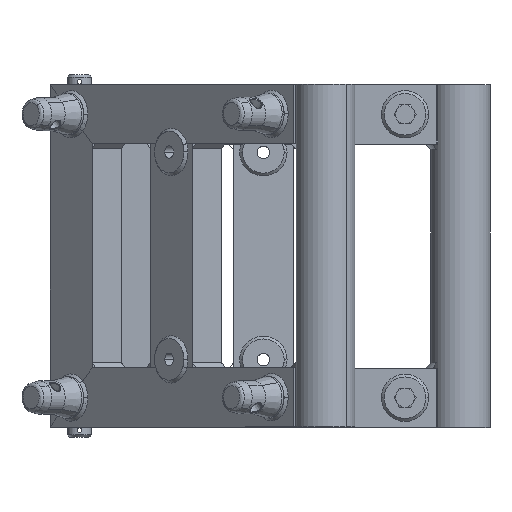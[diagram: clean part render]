
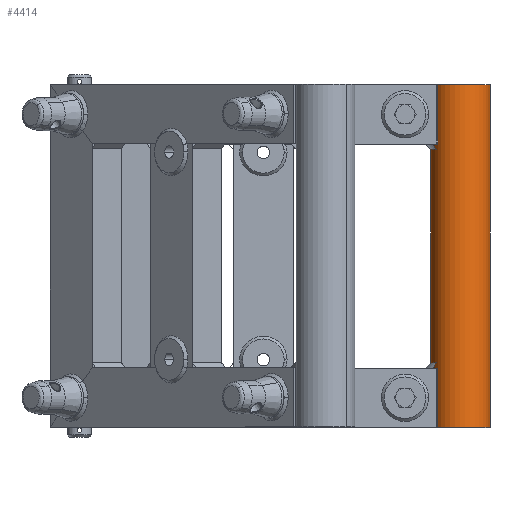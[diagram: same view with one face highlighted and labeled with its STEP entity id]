
A CAD part, top view. The second image highlights one B-rep face of the part: STEP entity #4414.
In plain terms, the highlighted cylindrical face has radius 25 mm (diameter 50 mm), a partial arc.
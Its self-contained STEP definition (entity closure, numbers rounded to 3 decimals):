
#4310=CARTESIAN_POINT('',(0.,-144.25,0.));
#4311=DIRECTION('',(0.,1.,0.));
#4312=DIRECTION('',(1.,0.,0.));
#4313=AXIS2_PLACEMENT_3D('',#4310,#4311,#4312);
#4330=DIRECTION('',(0.,1.,0.));
#4331=VECTOR('',#4330,288.5);
#4332=CARTESIAN_POINT('',(25.,-144.25,0.));
#4333=LINE('',#4332,#4331);
#4334=DIRECTION('',(0.,1.,0.));
#4335=VECTOR('',#4334,288.5);
#4336=CARTESIAN_POINT('',(-25.,-144.25,0.));
#4337=LINE('',#4336,#4335);
#4338=CARTESIAN_POINT('',(0.,144.25,0.));
#4339=DIRECTION('',(0.,1.,0.));
#4340=DIRECTION('',(1.,0.,0.));
#4341=AXIS2_PLACEMENT_3D('',#4338,#4339,#4340);
#4366=CARTESIAN_POINT('',(25.,-144.25,0.));
#4367=CARTESIAN_POINT('',(-25.,-144.25,0.));
#4368=VERTEX_POINT('',#4366);
#4369=VERTEX_POINT('',#4367);
#4374=CARTESIAN_POINT('',(25.,144.25,0.));
#4375=CARTESIAN_POINT('',(-25.,144.25,0.));
#4376=VERTEX_POINT('',#4374);
#4377=VERTEX_POINT('',#4375);
#4400=CARTESIAN_POINT('',(0.,-144.25,0.));
#4401=DIRECTION('',(0.,1.,0.));
#4402=DIRECTION('',(1.,0.,0.));
#4403=AXIS2_PLACEMENT_3D('',#4400,#4401,#4402);
#4404=CYLINDRICAL_SURFACE('',#4403,25.);
#4405=ORIENTED_EDGE('',*,*,#4387,.F.);
#4407=ORIENTED_EDGE('',*,*,#4406,.T.);
#4409=ORIENTED_EDGE('',*,*,#4408,.T.);
#4411=ORIENTED_EDGE('',*,*,#4410,.F.);
#4412=EDGE_LOOP('',(#4405,#4407,#4409,#4411));
#4413=FACE_OUTER_BOUND('',#4412,.F.);
#4414=ADVANCED_FACE('',(#4413),#4404,.T.);
#4314=CIRCLE('',#4313,25.);
#4342=CIRCLE('',#4341,25.);
#4387=EDGE_CURVE('',#4368,#4369,#4314,.T.);
#4406=EDGE_CURVE('',#4368,#4376,#4333,.T.);
#4408=EDGE_CURVE('',#4376,#4377,#4342,.T.);
#4410=EDGE_CURVE('',#4369,#4377,#4337,.T.);
